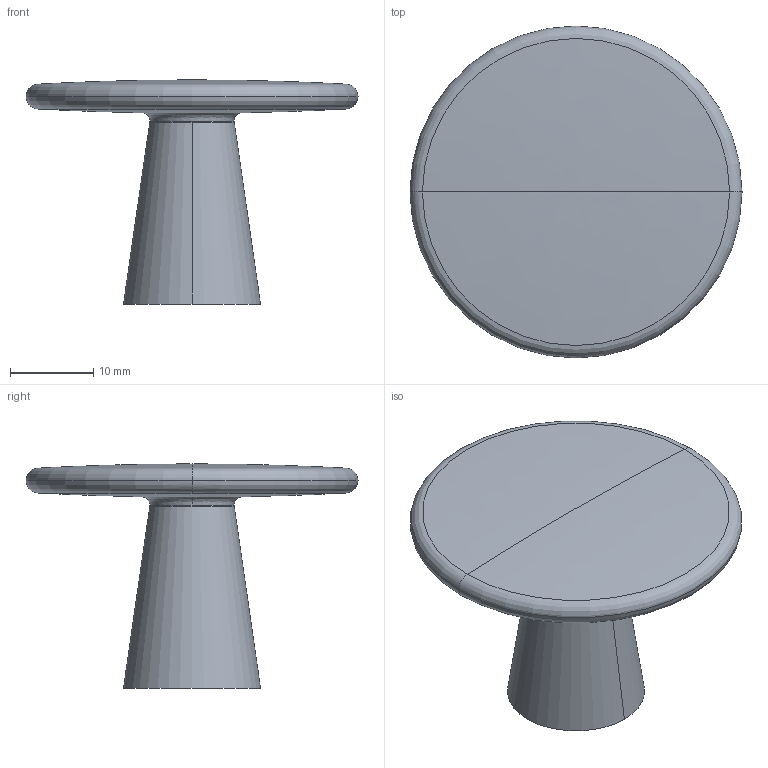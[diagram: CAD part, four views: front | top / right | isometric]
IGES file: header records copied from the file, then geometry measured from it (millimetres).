
Start section: Data from XPlus IGES,  Spatial Corp. Copyright (c) 1999-2004
Global section: file name: 115312.igs; native system:  By Spatial Corp.; preprocessor: XPlus ACIS/IGES 3.0; author: Noname; organization: Noname; date: 20130226.191057; units: millimetre
Bounding box: 40 x 40 x 27 mm (x, y, z)
Surface area: 3912.4 mm2 (no closed solid volume)
Topology: 0 solids, 0 shells, 18 faces, 80 edges, 78 vertices
Faces by surface type: revolution 16, extrusion 2
